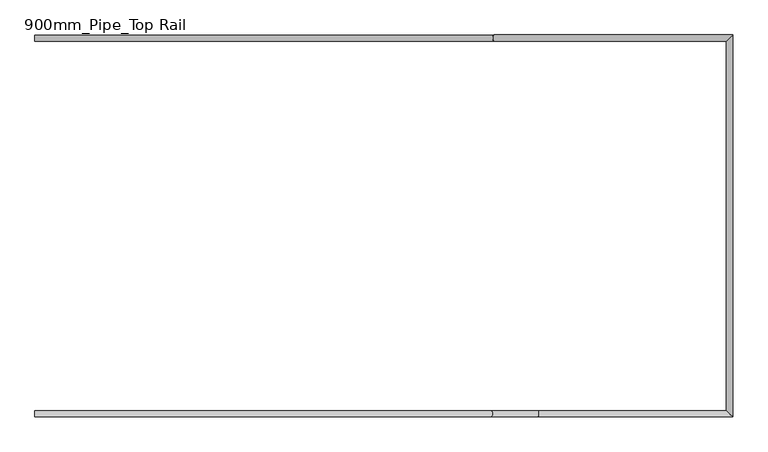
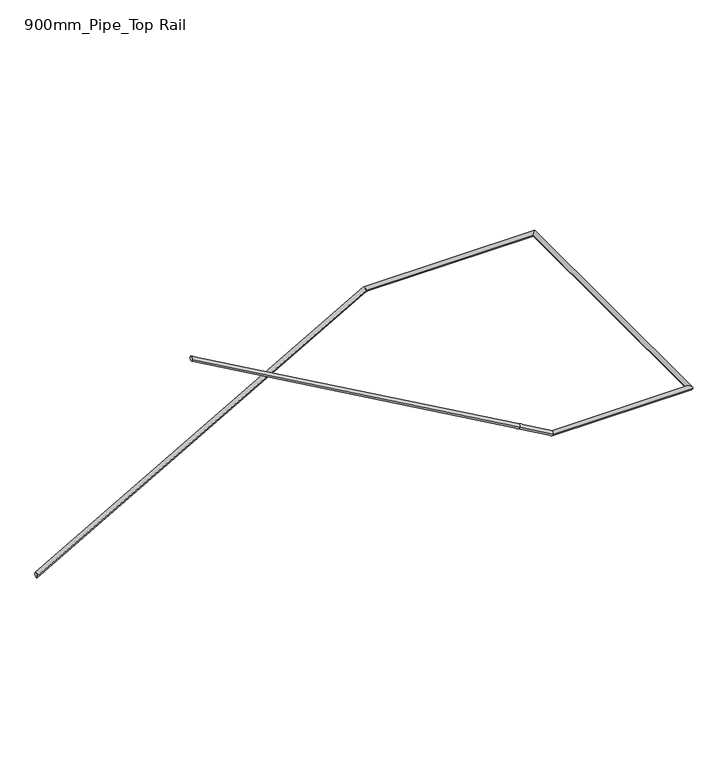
"""IFC4 building model written with IfcOpenShell, lengths in millimetres: railing geometry, 900mm_Pipe_Top Rail."""

import ifcopenshell
import ifcopenshell.guid

model = None  # the IFC model being written
_history = None  # IfcOwnerHistory: only IFC2X3 demands one
_inside = {}  # id of a spatial element -> (the spatial element, [elements in it])
_under = {}  # id of a project, library or spatial element -> (it, [spatial elements below it])
_declared = {}  # id of a project -> (the project, [libraries it declares])
_typed = {}  # id of a type object -> (the type object, [elements of that type])
_made_of = {}  # id of a material, layer set ... -> (it, [elements and type objects made of it])


def new_model(schema):
    """Start an empty IFC model of exactly this schema.

    Asked for "IFC4X3", IfcOpenShell would pick the latest addendum, in which some entities
    have other attributes; the version numbers below select the first issue.
    IFC2X3 requires an IfcOwnerHistory on every rooted entity: one is made here for all.
    """
    global model, _history
    if schema == "IFC4X3":
        model = ifcopenshell.file(schema_version=(4, 3, 0, 0))
    else:
        model = ifcopenshell.file(schema=schema)
    _inside.clear()
    _under.clear()
    _declared.clear()
    _typed.clear()
    _made_of.clear()
    _history = None
    if model.schema == "IFC2X3":
        org = make("IfcOrganization", Name="unknown")
        user = make(
            "IfcPersonAndOrganization",
            ThePerson=make("IfcPerson", FamilyName="unknown"),
            TheOrganization=org,
        )
        app = make(
            "IfcApplication",
            ApplicationDeveloper=org,
            Version="unknown",
            ApplicationFullName="unknown",
            ApplicationIdentifier="unknown",
        )
        _history = make(
            "IfcOwnerHistory",
            OwningUser=user,
            OwningApplication=app,
            ChangeAction="ADDED",
            CreationDate=0,
        )
    return model


def make(cls, **values):
    """One entity of the class cls with the attributes given. An attribute that is None is left unset."""
    return model.create_entity(
        cls, **{name: value for name, value in values.items() if value is not None}
    )


def rooted(cls, **values):
    """An entity with a GlobalId (a new one), such as an element, a storey or a relation."""
    return make(cls, GlobalId=ifcopenshell.guid.new(), OwnerHistory=_history, **values)


def si_unit(unit_type, name, prefix=None):
    """IfcSIUnit, for example si_unit("LENGTHUNIT", "METRE", prefix="MILLI")."""
    return make("IfcSIUnit", UnitType=unit_type, Prefix=prefix, Name=name)


def assignment(units):
    """IfcUnitAssignment: the units of a project."""
    return None if units is None else make("IfcUnitAssignment", Units=units)


def point(xyz):
    """IfcCartesianPoint."""
    return None if xyz is None else make("IfcCartesianPoint", Coordinates=xyz)


def direction(xyz):
    """IfcDirection."""
    return None if xyz is None else make("IfcDirection", DirectionRatios=xyz)


def frame(location, z_axis=None, x_axis=None):
    """IfcAxis2Placement3D, a coordinate frame: its origin and axes. An axis left out is left unset."""
    return make(
        "IfcAxis2Placement3D",
        Location=point(location),
        Axis=direction(z_axis),
        RefDirection=direction(x_axis),
    )


def origin():
    """The frame at (0, 0, 0) with its axes left unset."""
    return frame((0.0, 0.0, 0.0))


def place(relative_to, where):
    """IfcLocalPlacement: puts the frame where relative to a parent placement (None: the world)."""
    return make(
        "IfcLocalPlacement", PlacementRelTo=relative_to, RelativePlacement=where
    )


def context(
    kind, dimensions, precision=None, world=None, true_north=None, identifier=None
):
    """IfcGeometricRepresentationContext, for example the 3D "Model" context."""
    return make(
        "IfcGeometricRepresentationContext",
        ContextIdentifier=identifier,
        ContextType=kind,
        CoordinateSpaceDimension=dimensions,
        Precision=precision,
        WorldCoordinateSystem=world,
        TrueNorth=true_north,
    )


def project(units=None, contexts=None):
    """IfcProject with its units and contexts."""
    return rooted(
        "IfcProject",
        Name="project",
        RepresentationContexts=contexts,
        UnitsInContext=assignment(units),
    )


def spatial(cls, under=None, at=None, **own):
    """A site, building, storey or space (cls), placed at a placement, below another one or the project."""
    s = rooted(cls, ObjectPlacement=at, **own)
    if under is not None:
        _under.setdefault(under.id(), (under, []))[1].append(s)
    return s


def circle_curve(where, radius):
    """IfcCircle in the frame where."""
    return make("IfcCircle", Position=where, Radius=radius)


def ellipse_curve(where, semi_axis1, semi_axis2):
    """IfcEllipse in the frame where."""
    return make(
        "IfcEllipse", Position=where, SemiAxis1=semi_axis1, SemiAxis2=semi_axis2
    )


def shape(context_of_items, identifier, shape_type, items):
    """IfcShapeRepresentation: the items that make up one representation, for example the "Body"."""
    return make(
        "IfcShapeRepresentation",
        ContextOfItems=context_of_items,
        RepresentationIdentifier=identifier,
        RepresentationType=shape_type,
        Items=items,
    )


def source(mapping_origin, context_of_items, identifier, shape_type, items):
    """IfcRepresentationMap: a shape defined once, which mapped items show again and again."""
    return make(
        "IfcRepresentationMap",
        MappingOrigin=mapping_origin,
        MappedRepresentation=shape(context_of_items, identifier, shape_type, items),
    )


def transform(
    local_origin,
    x_axis=None,
    y_axis=None,
    z_axis=None,
    scale=None,
    scale2=None,
    scale3=None,
    uniform=True,
):
    """IfcCartesianTransformationOperator3D, or its non-uniform kind. x_axis, y_axis, z_axis: its Axis1, 2, 3."""
    if uniform:
        return make(
            "IfcCartesianTransformationOperator3D",
            Axis1=direction(x_axis),
            Axis2=direction(y_axis),
            LocalOrigin=point(local_origin),
            Scale=scale,
            Axis3=direction(z_axis),
        )
    return make(
        "IfcCartesianTransformationOperator3DnonUniform",
        Axis1=direction(x_axis),
        Axis2=direction(y_axis),
        LocalOrigin=point(local_origin),
        Scale=scale,
        Axis3=direction(z_axis),
        Scale2=scale2,
        Scale3=scale3,
    )


def mapped(mapping_source, mapping_target):
    """IfcMappedItem: shows the shape of a source again, moved by a transform."""
    return make(
        "IfcMappedItem", MappingSource=mapping_source, MappingTarget=mapping_target
    )


def made_of(thing, what):
    """Note that an element or type object is made of a material, layer set ...; save() writes the relation."""
    if what is not None:
        _made_of.setdefault(what.id(), (what, []))[1].append(thing)
    return thing


def element(
    cls,
    number,
    at=None,
    inside=None,
    cuts=None,
    type_object=None,
    material=None,
    context=None,
    identifier="Body",
    shape_type=None,
    held_by="IfcProductDefinitionShape",
    body=None,
    shapes=None,
    **own,
):
    """One element of the class cls, such as IfcWall. Its Tag is "e" and its number.

    at: its placement. inside: the storey or other place that contains it. cuts: it is an
    opening in that element (IfcRelVoidsElement). A single representation is given by context,
    identifier, shape_type and body (its items); several are given by shapes. held_by: the class
    of the entity that holds the representations. save() writes the other relations.
    """
    e = rooted(cls, Tag="e%d" % number, ObjectPlacement=at, **own)
    if body is not None:
        shapes = [shape(context, identifier, shape_type, body)]
    if shapes is not None:
        e.Representation = make(held_by, Representations=shapes)
    if inside is not None:
        _inside.setdefault(inside.id(), (inside, []))[1].append(e)
    if cuts is not None:
        rooted(
            "IfcRelVoidsElement", RelatingBuildingElement=cuts, RelatedOpeningElement=e
        )
    if type_object is not None:
        _typed.setdefault(type_object.id(), (type_object, []))[1].append(e)
    return made_of(e, material)


def aggregate(whole, parts):
    """IfcRelAggregates: a whole, such as a stair, and the parts it consists of."""
    return rooted("IfcRelAggregates", RelatingObject=whole, RelatedObjects=parts)


def save(model, path):
    """Write the relations noted so far, then the file.

    IfcRelAggregates (storeys below a building ...), IfcRelContainedInSpatialStructure (elements
    in a storey), IfcRelDefinesByType, IfcRelAssociatesMaterial and IfcRelDeclares: one each for
    every whole, place, type object, material and project.
    """
    for whole, parts in _under.values():
        aggregate(whole, parts)
    for where, things in _inside.values():
        rooted(
            "IfcRelContainedInSpatialStructure",
            RelatedElements=things,
            RelatingStructure=where,
        )
    for kind, things in _typed.values():
        rooted("IfcRelDefinesByType", RelatedObjects=things, RelatingType=kind)
    for what, things in _made_of.values():
        rooted("IfcRelAssociatesMaterial", RelatedObjects=things, RelatingMaterial=what)
    for by, libraries in _declared.values():
        rooted("IfcRelDeclares", RelatingContext=by, RelatedDefinitions=libraries)
    model.write(path)


def plane_surface(at):
    """IfcPlane: the flat surface through the origin of the frame at, square to its z axis."""
    return make("IfcPlane", Position=at)


def cylinder_surface(at, radius):
    """IfcCylindricalSurface: all points at the distance radius from the z axis of the frame at."""
    return make("IfcCylindricalSurface", Position=at, Radius=radius)


def advanced_brep(points, edges, surfaces, faces):
    """IfcAdvancedBrep: a solid bounded by faces that lie on surfaces and meet in shared edges.

    An edge is (start, end): straight between two places in points (the first is 0);
    or (start, end, curve); or (start, end, curve, False) where it runs against its curve.
    A face is (place in surfaces, loops), or (place, loops, False) where it looks against
    its surface's normal. A loop lists edges by number (the first is 1), with a minus sign
    where the edge is run from its end to its start. The first loop is the outer one.
    """
    corners = [point(p) for p in points]
    vertices = [make("IfcVertexPoint", VertexGeometry=c) for c in corners]
    made = []
    for start, end, *more in edges:
        made.append(
            make(
                "IfcEdgeCurve",
                EdgeStart=vertices[start],
                EdgeEnd=vertices[end],
                EdgeGeometry=more[0] if more else make("IfcPolyline", Points=[corners[start], corners[end]]),
                SameSense=more[1] if len(more) > 1 else True,
            )
        )
    hull = []
    for where, loops, *sense in faces:
        bounds = []
        for j, loop in enumerate(loops):
            ring = [make("IfcOrientedEdge", EdgeElement=made[abs(k) - 1], Orientation=k > 0) for k in loop]
            bounds.append(
                make(
                    "IfcFaceOuterBound" if j == 0 else "IfcFaceBound",
                    Bound=make("IfcEdgeLoop", EdgeList=ring),
                    Orientation=True,
                )
            )
        hull.append(make("IfcAdvancedFace", Bounds=bounds, FaceSurface=surfaces[where], SameSense=sense[0] if sense else True))
    return make("IfcAdvancedBrep", Outer=make("IfcClosedShell", CfsFaces=hull))


def railing_900mm_pipe_top_rail_dc59ab8f(model_context):
    return source(origin(), model_context, "Body", "AdvancedBrep", [
        advanced_brep(
        [(-801.4958562, 13503.7395051, 12307.451671), (-801.4958562, 13543.7395051, 12307.451671), (2203.7892028, 13503.7395051, 14015.0), (2203.7892028, 13543.7395051, 14015.0), (3728.1041438, 13503.7395051, 14015.0), (3768.1041438, 13543.7395051, 14015.0), (3728.1041438, 11085.0238126, 14015.0), (3768.1041438, 11045.0238126, 14015.0), (2493.2190848, 11085.0238126, 14015.0), (2493.2190848, 11045.0238126, 14015.0), (2188.6239556, 11085.0238126, 14188.0654143), (2188.6239556, 11045.0238126, 14188.0654143), (-801.4958562, 11085.0238126, 15886.9971256), (-801.4958562, 11045.0238126, 15886.9971256)],
        [
            (0, 1, ellipse_curve(frame((-801.4958562, 13523.7395051, 12307.451671), z_axis=(-1.0, 0.0, 0.0), x_axis=(0.0, 0.0, -1.0)), 23.0028744, 20.0)),
            (1, 0, ellipse_curve(frame((-801.4958562, 13523.7395051, 12307.451671), z_axis=(-1.0, 0.0, 0.0), x_axis=(0.0, 0.0, -1.0)), 23.0028744, 20.0)),
            (0, 2),
            (2, 3, ellipse_curve(frame((2203.7892028, 13523.7395051, 14015.0), z_axis=(-0.9668134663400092, 0.0, -0.2554833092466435), x_axis=(0.25548330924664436, 0.0, -0.9668134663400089)), 20.6865137, 20.0)),
            (3, 1),
            (3, 2, ellipse_curve(frame((2203.7892028, 13523.7395051, 14015.0), z_axis=(-0.9668134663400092, 0.0, -0.2554833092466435), x_axis=(0.25548330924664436, 0.0, -0.9668134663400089)), 20.6865137, 20.0)),
            (2, 4),
            (4, 5, ellipse_curve(frame((3748.1041438, 13523.7395051, 14015.0), z_axis=(-0.7071067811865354, 0.7071067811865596, 0.0), x_axis=(-0.7071067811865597, -0.7071067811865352, 0.0)), 28.2842712, 20.0)),
            (5, 3),
            (5, 4, ellipse_curve(frame((3748.1041438, 13523.7395051, 14015.0), z_axis=(-0.7071067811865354, 0.7071067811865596, 0.0), x_axis=(-0.7071067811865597, -0.7071067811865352, 0.0)), 28.2842712, 20.0)),
            (4, 6),
            (6, 7, ellipse_curve(frame((3748.1041438, 11065.0238126, 14015.0), z_axis=(0.7071067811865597, 0.7071067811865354, 0.0), x_axis=(-0.7071067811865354, 0.7071067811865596, 0.0)), 28.2842712, 20.0)),
            (7, 5),
            (7, 6, ellipse_curve(frame((3748.1041438, 11065.0238126, 14015.0), z_axis=(0.7071067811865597, 0.7071067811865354, 0.0), x_axis=(-0.7071067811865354, 0.7071067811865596, 0.0)), 28.2842712, 20.0)),
            (6, 8),
            (8, 9, ellipse_curve(frame((2493.2190848, 11065.0238126, 14015.0), z_axis=(0.9668134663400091, 0.0, -0.2554833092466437), x_axis=(0.2554833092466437, 0.0, 0.966813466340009)), 20.6865137, 20.0)),
            (9, 7),
            (9, 8, ellipse_curve(frame((2493.2190848, 11065.0238126, 14015.0), z_axis=(0.9668134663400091, 0.0, -0.2554833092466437), x_axis=(0.2554833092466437, 0.0, 0.966813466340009)), 20.6865137, 20.0)),
            (8, 10),
            (10, 11, circle_curve(frame((2188.6239556, 11065.0238126, 14188.0654143), z_axis=(0.8694565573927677, 0.0, -0.494009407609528), x_axis=(0.0, -1.0, 0.0)), 20.0)),
            (11, 9),
            (11, 10, circle_curve(frame((2188.6239556, 11065.0238126, 14188.0654143), z_axis=(0.8694565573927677, 0.0, -0.494009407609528), x_axis=(0.0, -1.0, 0.0)), 20.0)),
            (12, 13, ellipse_curve(frame((-801.4958562, 11065.0238126, 15886.9971256), z_axis=(-1.0, 0.0, 0.0), x_axis=(0.0, 0.0, -1.0)), 23.0028744, 20.0)),
            (13, 12, ellipse_curve(frame((-801.4958562, 11065.0238126, 15886.9971256), z_axis=(-1.0, 0.0, 0.0), x_axis=(0.0, 0.0, -1.0)), 23.0028744, 20.0)),
            (10, 12),
            (13, 11),
        ],
        [
            plane_surface(frame((-801.4958562, 13523.7395051, 12330.4545455), z_axis=(-1.0, 0.0, 0.0), x_axis=(0.0, 1.0, 0.0))),
            cylinder_surface(frame((-791.6156681, 13523.7395051, 12313.0654143), z_axis=(-0.8694565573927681, 0.0, -0.4940094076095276), x_axis=(0.0, 1.0, 0.0)), 20.0),
            cylinder_surface(frame((2198.5041438, 13523.7395051, 14015.0), z_axis=(-1.0, 0.0, 0.0), x_axis=(0.0, 1.0, 0.0)), 20.0),
            cylinder_surface(frame((3748.1041438, 13523.7395051, 14015.0), z_axis=(0.0, 1.0, 0.0), x_axis=(1.0, 0.0, 0.0)), 20.0),
            cylinder_surface(frame((3748.1041438, 11065.0238126, 14015.0), z_axis=(1.0, 0.0, 0.0), x_axis=(0.0, -1.0, 0.0)), 20.0),
            cylinder_surface(frame((2488.6239556, 11065.0238126, 14017.6108689), z_axis=(0.8694565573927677, 0.0, -0.494009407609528), x_axis=(0.0, -1.0, 0.0)), 20.0),
            plane_surface(frame((-801.4958562, 11065.0238126, 15910.0), z_axis=(-1.0, 0.0, 0.0), x_axis=(0.0, -1.0, 0.0))),
            cylinder_surface(frame((2188.6239556, 11065.0238126, 14188.0654143), z_axis=(0.8694565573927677, 0.0, -0.49400940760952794), x_axis=(0.0, -1.0, 0.0)), 20.0),
        ],
        [
            (0, [[1, 2]]),
            (1, [[-1, 3, 4, 5]]),
            (1, [[-2, -5, 6, -3]]),
            (2, [[-4, 7, 8, 9]]),
            (2, [[-6, -9, 10, -7]]),
            (3, [[-8, 11, 12, 13]]),
            (3, [[-10, -13, 14, -11]]),
            (4, [[-12, 15, 16, 17]]),
            (4, [[-14, -17, 18, -15]]),
            (5, [[-16, 19, 20, 21]]),
            (5, [[-18, -21, 22, -19]]),
            (6, [[23, 24]]),
            (7, [[-20, 25, -24, 26]]),
            (7, [[-22, -26, -23, -25]]),
        ],
    ),
    ])


if __name__ == "__main__":
    model = new_model("IFC4")
    model_context = context("Model", 3, world=origin())
    ifc_project = project(units=[si_unit("LENGTHUNIT", "METRE", prefix="MILLI")], contexts=[model_context])
    site = spatial("IfcSite", under=ifc_project)
    building = spatial("IfcBuilding", under=site)
    placement = place(None, origin())
    railing_900mm_pipe_top_rail_shape = railing_900mm_pipe_top_rail_dc59ab8f(model_context)
    element("IfcRailing", 1, ObjectType="900mm_Pipe_Top Rail", at=placement, inside=building, context=model_context, shape_type="MappedRepresentation", body=[
        mapped(railing_900mm_pipe_top_rail_shape, transform((0.0, 0.0, 0.0), x_axis=(1.0, 0.0, 0.0), y_axis=(0.0, 1.0, 0.0), z_axis=(0.0, 0.0, 1.0))),
    ])
    save(model, "model.ifc")
